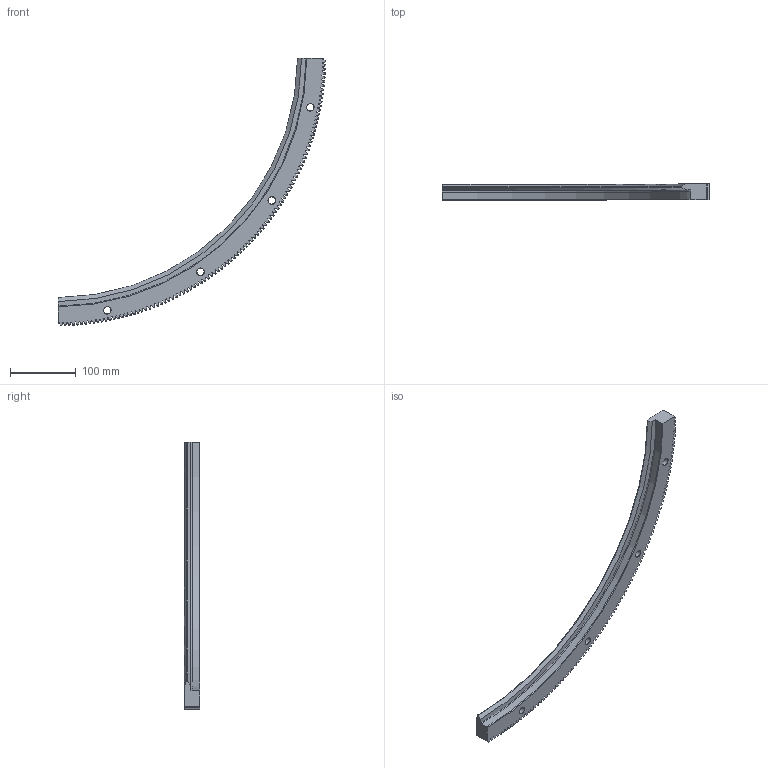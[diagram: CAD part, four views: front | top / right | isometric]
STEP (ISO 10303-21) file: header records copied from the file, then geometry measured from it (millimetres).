
FILE_DESCRIPTION( ( 'STEP AP203' ), '1' );
FILE_NAME( 'p:/temp/worker_21/temp/exporttempdir_776_609_Vdu1V/format_0/RIL 820 R90 P.stp', '2021-09-21T06:36:32', ( 'License CC BY-ND 4.0' ), ( 'CADENAS' ), ' ', 'PARTsolutions', ' ' );
FILE_SCHEMA( ( 'CONFIG_CONTROL_DESIGN' ) );
Length unit declared in the file: millimetre
Products named in the file (1): _RIL 820 R90 P
Bounding box: 407.96 x 24 x 407.96 mm (x, y, z)
Volume: 446647.3 mm3; surface area: 96818.6 mm2
Topology: 1 solids, 1 shells, 638 faces, 1892 edges, 1260 vertices
Faces by surface type: plane 418, cylinder 111, cone 108, torus 1
Full cylindrical faces by diameter (mm): 11 x4, 18 x4
Entity records: 21436 total; most frequent: CARTESIAN_POINT 4419, ORIENTED_EDGE 3760, DIRECTION 3280, EDGE_CURVE 1880, LINE 1338, VECTOR 1338, VERTEX_POINT 1260, AXIS2_PLACEMENT_3D 971
